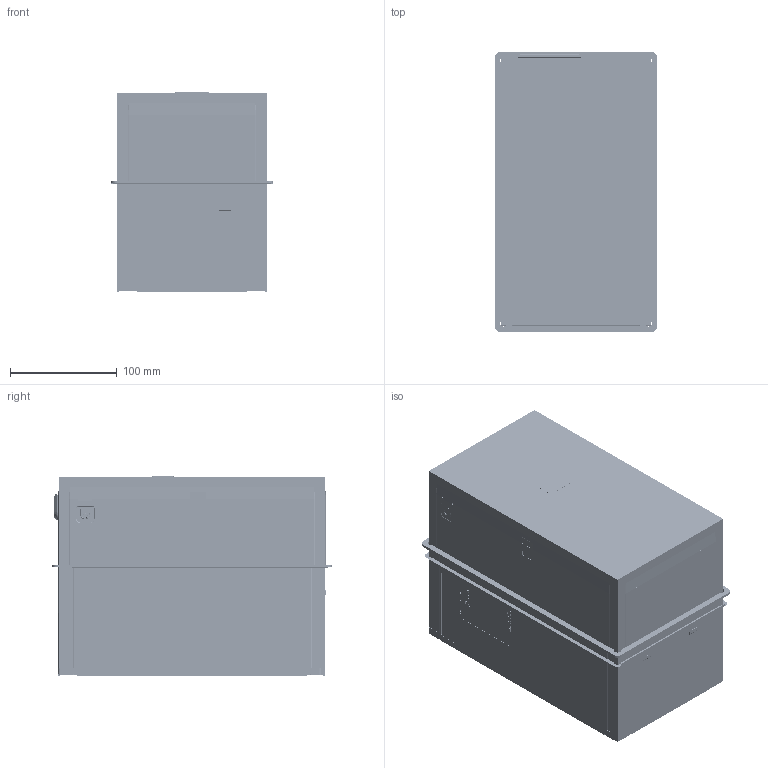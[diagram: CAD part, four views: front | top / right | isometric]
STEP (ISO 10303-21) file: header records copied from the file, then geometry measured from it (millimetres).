
FILE_DESCRIPTION((''),'2;1');
FILE_NAME('T3_ASM','2024-03-28T13:19:57',('dyliuk'),(''),'CREO PARAMETRIC BY PTC INC, 2020044','CREO PARAMETRIC BY PTC INC, 2020044','');
FILE_SCHEMA(('CONFIG_CONTROL_DESIGN','SHAPE_APPEARANCE_LAYERS_GROUPS'));
Products named in the file (43): 8315V1621_11_1_1; 8315V1622_14_1_1; TFD610-7D5-01_ASM_8_ASM_1_ASM_1_ASM; 8355V1606_15_1_1; 9010201186_6_1_1; 5355V1606_ASM_26_ASM_1_ASM_1_ASM; 8325V1613_16_1_1; 8392V1606_11_1_1; TFD610-7D5-02_ASM_11_ASM_1_ASM__ASM; 8022V1608_9_1_1; 8ZTD_945_031_5_1_1; 8ZTD_946_133_4_1_1; 5022V1606_ASM_17_ASM_1_ASM_1_ASM; 8055V1604_12_1_1; 8423V1609_6_1_1; 8300V1602_16_1_1; 2121003127_1_1_1; TFD610-7D5-03_ASM_36_ASM_1_ASM__ASM; SP110176_1_1_1; SP040450_1_1_1; SP070016_1_1_1; TFD610-7D5-06_ASM_4_ASM_1_ASM_1_ASM; TFD610-7D5_ASM_41_ASM_1_ASM_1_ASM; 8315V1617_1; PCB-1_1_1_1; PCB-2-A_1_1_1; LCD-1_1_1_1; ANL01_1_23_1__4_1_1_1; MANIFOLD_SOLID_BREP_21504_1_1; MANIFOLD_SOLID_BREP_21654_1_1; DZ-01_1_3_7_1__1_1_ASM_1_ASM_1_ASM; 5599V1602_ASM_1_ASM; 8865V1605_1; BOX-BOTTOM-PLATE_1_1_1; M4X4_1_1_1; 5022V1607_ASM_1_ASM; LED-11_1_1; PA-3X6_1_1; 5353V1602_ASM_1_ASM; 8865V1601-250T-315T_1_1_1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
Assembly tree (67 placements, depth 6):
  T3_ASM
    T3_ASM_1_ASM
      TFD610-7D5_ASM_41_ASM_1_ASM_1_ASM
        TFD610-7D5-01_ASM_8_ASM_1_ASM_1_ASM
          8315V1621_11_1_1
          8315V1622_14_1_1
        TFD610-7D5-02_ASM_11_ASM_1_ASM__ASM
          5355V1606_ASM_26_ASM_1_ASM_1_ASM
            8355V1606_15_1_1
            9010201186_6_1_1
          8325V1613_16_1_1
          8392V1606_11_1_1
        TFD610-7D5-03_ASM_36_ASM_1_ASM__ASM
          5022V1606_ASM_17_ASM_1_ASM_1_ASM
            8022V1608_9_1_1
            8ZTD_945_031_5_1_1  x4
            8ZTD_946_133_4_1_1  x4
          8055V1604_12_1_1
          8423V1609_6_1_1
          8300V1602_16_1_1
          2121003127_1_1_1  x2
        TFD610-7D5-06_ASM_4_ASM_1_ASM_1_ASM
          SP110176_1_1_1  x4
          SP040450_1_1_1  x4
          SP070016_1_1_1  x2
      5353V1602_ASM_1_ASM
        8315V1617_1
        5599V1602_ASM_1_ASM
          PCB-1_1_1_1
          PCB-2-A_1_1_1
          LCD-1_1_1_1
          ANL01_1_23_1__4_1_1_1  x9
          DZ-01_1_3_7_1__1_1_ASM_1_ASM_1_ASM
            MANIFOLD_SOLID_BREP_21504_1_1
            MANIFOLD_SOLID_BREP_21654_1_1
        8865V1605_1
        5022V1607_ASM_1_ASM
          BOX-BOTTOM-PLATE_1_1_1
          M4X4_1_1_1  x2
        LED-11_1_1
        PA-3X6_1_1  x3
      8865V1601-250T-315T_1_1_1
    8ZTD-865-1230-00_1_1
Bounding box: 152 x 262 x 186.65 mm (x, y, z)
Volume: 579871.7 mm3; surface area: 2473536.6 mm2
Topology: 47 solids, 157 shells, 11472 faces, 34756 edges, 23789 vertices
Faces by surface type: plane 7879, cylinder 2503, cone 384, torus 357, bspline 254, extrusion 62, sphere 29, revolution 4
Entity records: 459144 total; most frequent: CARTESIAN_POINT 94464, ORIENTED_EDGE 58660, DIRECTION 51761, EDGE_CURVE 30724, PRESENTATION_STYLE_ASSIGNMENT 24862, STYLED_ITEM 23660, VECTOR 22651, LINE 22589
